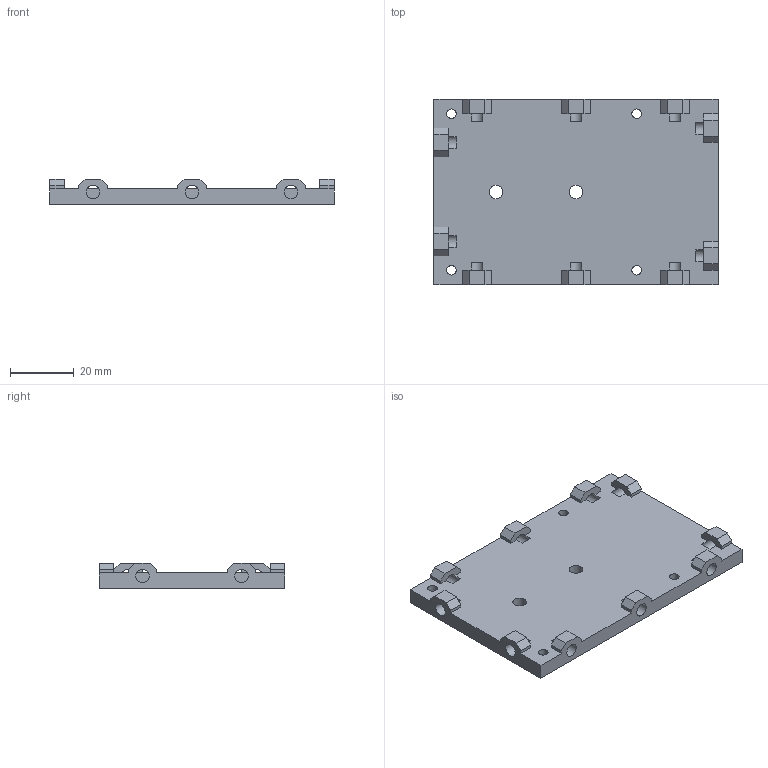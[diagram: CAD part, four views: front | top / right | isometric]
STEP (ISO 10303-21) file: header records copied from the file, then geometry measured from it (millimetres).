
FILE_DESCRIPTION(/* description */ ('STEP AP242','CAx-IF Rec.Pracs.---Representation and Presentation of Product Manufacturing Information (PMI)---4.0---2014-10-13','CAx-IF Rec.Pracs.---3D Tessellated Geometry---0.4---2014-09-14','2;1'),/* implementation_level */ '2;1');
FILE_NAME(/* name */ 'Case - Part 6',/* time_stamp */ '2024-08-18T13:23:26Z',/* author */ (''),/* organization */ (''),/* preprocessor_version */ 'ST-DEVELOPER v20',/* originating_system */ ' ',/* authorisation */ ' ');
FILE_SCHEMA (('AP242_MANAGED_MODEL_BASED_3D_ENGINEERING_MIM_LF { 1 0 10303 442 1 1 4 }'));
Length unit declared in the file: metre
Products named in the file (1): Part 6
Bounding box: 89 x 58 x 8 mm (x, y, z)
Volume: 25667.6 mm3; surface area: 13287.7 mm2
Topology: 1 solids, 1 shells, 92 faces, 300 edges, 200 vertices
Faces by surface type: plane 76, cylinder 16
Full cylindrical faces by diameter (mm): 3 x4, 4.2 x12
Entity records: 3182 total; most frequent: CARTESIAN_POINT 557, ORIENTED_EDGE 548, DIRECTION 502, EDGE_CURVE 274, LINE 232, VECTOR 232, VERTEX_POINT 190, AXIS2_PLACEMENT_3D 135
